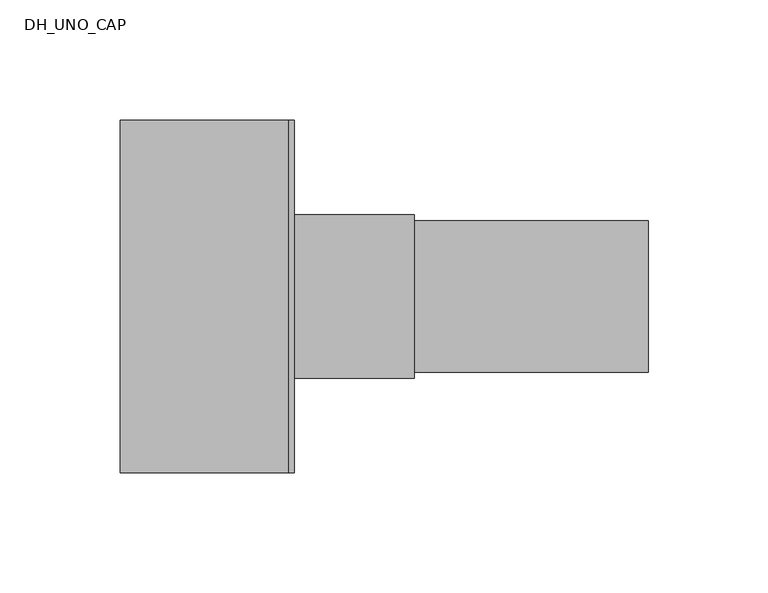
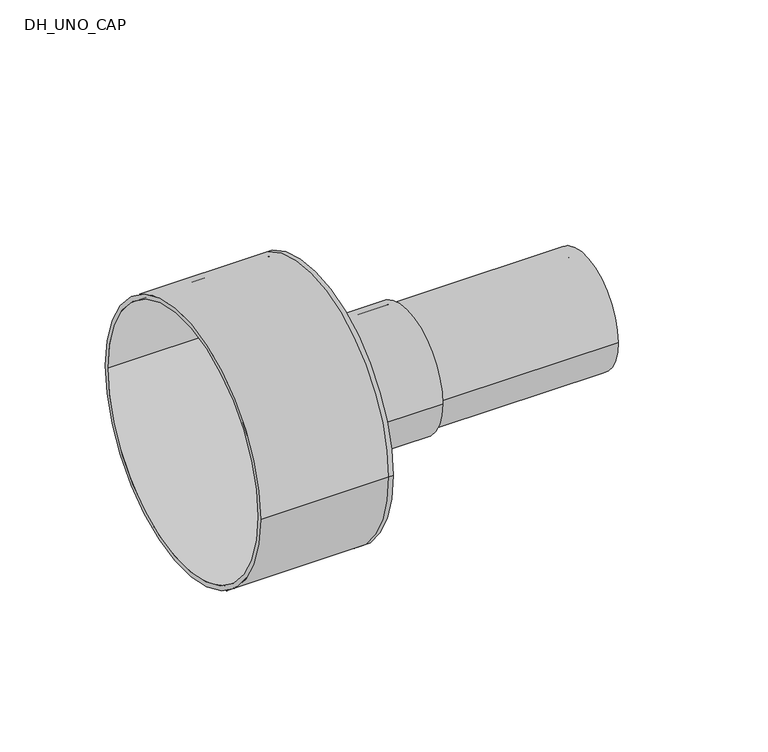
"""IFC4 building model written with IfcOpenShell, lengths in millimetres: pipe fitting geometry, DH_UNO_CAP : RAUTHERMEX UNO + 11 Heating - Schrink Cap."""

import ifcopenshell
import ifcopenshell.guid

model = None  # the IFC model being written
_history = None  # IfcOwnerHistory: only IFC2X3 demands one
_inside = {}  # id of a spatial element -> (the spatial element, [elements in it])
_under = {}  # id of a project, library or spatial element -> (it, [spatial elements below it])
_declared = {}  # id of a project -> (the project, [libraries it declares])
_typed = {}  # id of a type object -> (the type object, [elements of that type])
_made_of = {}  # id of a material, layer set ... -> (it, [elements and type objects made of it])


def new_model(schema):
    """Start an empty IFC model of exactly this schema.

    Asked for "IFC4X3", IfcOpenShell would pick the latest addendum, in which some entities
    have other attributes; the version numbers below select the first issue.
    IFC2X3 requires an IfcOwnerHistory on every rooted entity: one is made here for all.
    """
    global model, _history
    if schema == "IFC4X3":
        model = ifcopenshell.file(schema_version=(4, 3, 0, 0))
    else:
        model = ifcopenshell.file(schema=schema)
    _inside.clear()
    _under.clear()
    _declared.clear()
    _typed.clear()
    _made_of.clear()
    _history = None
    if model.schema == "IFC2X3":
        org = make("IfcOrganization", Name="unknown")
        user = make(
            "IfcPersonAndOrganization",
            ThePerson=make("IfcPerson", FamilyName="unknown"),
            TheOrganization=org,
        )
        app = make(
            "IfcApplication",
            ApplicationDeveloper=org,
            Version="unknown",
            ApplicationFullName="unknown",
            ApplicationIdentifier="unknown",
        )
        _history = make(
            "IfcOwnerHistory",
            OwningUser=user,
            OwningApplication=app,
            ChangeAction="ADDED",
            CreationDate=0,
        )
    return model


def make(cls, **values):
    """One entity of the class cls with the attributes given. An attribute that is None is left unset."""
    return model.create_entity(
        cls, **{name: value for name, value in values.items() if value is not None}
    )


def rooted(cls, **values):
    """An entity with a GlobalId (a new one), such as an element, a storey or a relation."""
    return make(cls, GlobalId=ifcopenshell.guid.new(), OwnerHistory=_history, **values)


def si_unit(unit_type, name, prefix=None):
    """IfcSIUnit, for example si_unit("LENGTHUNIT", "METRE", prefix="MILLI")."""
    return make("IfcSIUnit", UnitType=unit_type, Prefix=prefix, Name=name)


def assignment(units):
    """IfcUnitAssignment: the units of a project."""
    return None if units is None else make("IfcUnitAssignment", Units=units)


def point(xyz):
    """IfcCartesianPoint."""
    return None if xyz is None else make("IfcCartesianPoint", Coordinates=xyz)


def direction(xyz):
    """IfcDirection."""
    return None if xyz is None else make("IfcDirection", DirectionRatios=xyz)


def frame(location, z_axis=None, x_axis=None):
    """IfcAxis2Placement3D, a coordinate frame: its origin and axes. An axis left out is left unset."""
    return make(
        "IfcAxis2Placement3D",
        Location=point(location),
        Axis=direction(z_axis),
        RefDirection=direction(x_axis),
    )


def frame_2d(location, x_axis=None):
    """IfcAxis2Placement2D, a coordinate frame in the plane: its origin and x axis."""
    return make(
        "IfcAxis2Placement2D", Location=point(location), RefDirection=direction(x_axis)
    )


def origin():
    """The frame at (0, 0, 0) with its axes left unset."""
    return frame((0.0, 0.0, 0.0))


def origin_2d():
    """The frame at (0, 0) in the plane with its x axis left unset."""
    return frame_2d((0.0, 0.0))


def place(relative_to, where):
    """IfcLocalPlacement: puts the frame where relative to a parent placement (None: the world)."""
    return make(
        "IfcLocalPlacement", PlacementRelTo=relative_to, RelativePlacement=where
    )


def context(
    kind, dimensions, precision=None, world=None, true_north=None, identifier=None
):
    """IfcGeometricRepresentationContext, for example the 3D "Model" context."""
    return make(
        "IfcGeometricRepresentationContext",
        ContextIdentifier=identifier,
        ContextType=kind,
        CoordinateSpaceDimension=dimensions,
        Precision=precision,
        WorldCoordinateSystem=world,
        TrueNorth=true_north,
    )


def project(units=None, contexts=None):
    """IfcProject with its units and contexts."""
    return rooted(
        "IfcProject",
        Name="project",
        RepresentationContexts=contexts,
        UnitsInContext=assignment(units),
    )


def spatial(cls, under=None, at=None, **own):
    """A site, building, storey or space (cls), placed at a placement, below another one or the project."""
    s = rooted(cls, ObjectPlacement=at, **own)
    if under is not None:
        _under.setdefault(under.id(), (under, []))[1].append(s)
    return s


def polyline(points):
    """IfcPolyline through the points."""
    return make("IfcPolyline", Points=[point(p) for p in points])


def circle_curve(where, radius):
    """IfcCircle in the frame where."""
    return make("IfcCircle", Position=where, Radius=radius)


def trimmed(basis, trim1, trim2, sense, master):
    """IfcTrimmedCurve: the piece of a basis curve between two trims."""
    return make(
        "IfcTrimmedCurve",
        BasisCurve=basis,
        Trim1=trim1,
        Trim2=trim2,
        SenseAgreement=sense,
        MasterRepresentation=master,
    )


def segment(curve, same_sense, transition):
    """IfcCompositeCurveSegment."""
    return make(
        "IfcCompositeCurveSegment",
        Transition=transition,
        SameSense=same_sense,
        ParentCurve=curve,
    )


def composite_curve(segments, self_intersect=None):
    """IfcCompositeCurve: segments joined end to end."""
    return make("IfcCompositeCurve", Segments=segments, SelfIntersect=self_intersect)


def outline(outer, holes=None, kind="AREA"):
    """IfcArbitraryClosedProfileDef: a profile drawn as a closed curve; with holes, ...WithVoids."""
    if holes is None:
        return make("IfcArbitraryClosedProfileDef", ProfileType=kind, OuterCurve=outer)
    return make(
        "IfcArbitraryProfileDefWithVoids",
        ProfileType=kind,
        OuterCurve=outer,
        InnerCurves=holes,
    )


def extrude(swept, where, along, depth):
    """IfcExtrudedAreaSolid: the profile swept, set in the frame where, extruded along a direction by depth."""
    return make(
        "IfcExtrudedAreaSolid",
        SweptArea=swept,
        Position=where,
        ExtrudedDirection=direction(along),
        Depth=depth,
    )


def shape(context_of_items, identifier, shape_type, items):
    """IfcShapeRepresentation: the items that make up one representation, for example the "Body"."""
    return make(
        "IfcShapeRepresentation",
        ContextOfItems=context_of_items,
        RepresentationIdentifier=identifier,
        RepresentationType=shape_type,
        Items=items,
    )


def source(mapping_origin, context_of_items, identifier, shape_type, items):
    """IfcRepresentationMap: a shape defined once, which mapped items show again and again."""
    return make(
        "IfcRepresentationMap",
        MappingOrigin=mapping_origin,
        MappedRepresentation=shape(context_of_items, identifier, shape_type, items),
    )


def transform(
    local_origin,
    x_axis=None,
    y_axis=None,
    z_axis=None,
    scale=None,
    scale2=None,
    scale3=None,
    uniform=True,
):
    """IfcCartesianTransformationOperator3D, or its non-uniform kind. x_axis, y_axis, z_axis: its Axis1, 2, 3."""
    if uniform:
        return make(
            "IfcCartesianTransformationOperator3D",
            Axis1=direction(x_axis),
            Axis2=direction(y_axis),
            LocalOrigin=point(local_origin),
            Scale=scale,
            Axis3=direction(z_axis),
        )
    return make(
        "IfcCartesianTransformationOperator3DnonUniform",
        Axis1=direction(x_axis),
        Axis2=direction(y_axis),
        LocalOrigin=point(local_origin),
        Scale=scale,
        Axis3=direction(z_axis),
        Scale2=scale2,
        Scale3=scale3,
    )


def mapped(mapping_source, mapping_target):
    """IfcMappedItem: shows the shape of a source again, moved by a transform."""
    return make(
        "IfcMappedItem", MappingSource=mapping_source, MappingTarget=mapping_target
    )


def made_of(thing, what):
    """Note that an element or type object is made of a material, layer set ...; save() writes the relation."""
    if what is not None:
        _made_of.setdefault(what.id(), (what, []))[1].append(thing)
    return thing


def element(
    cls,
    number,
    at=None,
    inside=None,
    cuts=None,
    type_object=None,
    material=None,
    context=None,
    identifier="Body",
    shape_type=None,
    held_by="IfcProductDefinitionShape",
    body=None,
    shapes=None,
    **own,
):
    """One element of the class cls, such as IfcWall. Its Tag is "e" and its number.

    at: its placement. inside: the storey or other place that contains it. cuts: it is an
    opening in that element (IfcRelVoidsElement). A single representation is given by context,
    identifier, shape_type and body (its items); several are given by shapes. held_by: the class
    of the entity that holds the representations. save() writes the other relations.
    """
    e = rooted(cls, Tag="e%d" % number, ObjectPlacement=at, **own)
    if body is not None:
        shapes = [shape(context, identifier, shape_type, body)]
    if shapes is not None:
        e.Representation = make(held_by, Representations=shapes)
    if inside is not None:
        _inside.setdefault(inside.id(), (inside, []))[1].append(e)
    if cuts is not None:
        rooted(
            "IfcRelVoidsElement", RelatingBuildingElement=cuts, RelatedOpeningElement=e
        )
    if type_object is not None:
        _typed.setdefault(type_object.id(), (type_object, []))[1].append(e)
    return made_of(e, material)


def aggregate(whole, parts):
    """IfcRelAggregates: a whole, such as a stair, and the parts it consists of."""
    return rooted("IfcRelAggregates", RelatingObject=whole, RelatedObjects=parts)


def save(model, path):
    """Write the relations noted so far, then the file.

    IfcRelAggregates (storeys below a building ...), IfcRelContainedInSpatialStructure (elements
    in a storey), IfcRelDefinesByType, IfcRelAssociatesMaterial and IfcRelDeclares: one each for
    every whole, place, type object, material and project.
    """
    for whole, parts in _under.values():
        aggregate(whole, parts)
    for where, things in _inside.values():
        rooted(
            "IfcRelContainedInSpatialStructure",
            RelatedElements=things,
            RelatingStructure=where,
        )
    for kind, things in _typed.values():
        rooted("IfcRelDefinesByType", RelatedObjects=things, RelatingType=kind)
    for what, things in _made_of.values():
        rooted("IfcRelAssociatesMaterial", RelatedObjects=things, RelatingMaterial=what)
    for by, libraries in _declared.values():
        rooted("IfcRelDeclares", RelatingContext=by, RelatedDefinitions=libraries)
    model.write(path)


def plane_surface(at):
    """IfcPlane: the flat surface through the origin of the frame at, square to its z axis."""
    return make("IfcPlane", Position=at)


def cylinder_surface(at, radius):
    """IfcCylindricalSurface: all points at the distance radius from the z axis of the frame at."""
    return make("IfcCylindricalSurface", Position=at, Radius=radius)


def revolved_surface(curve, axis_point, axis_direction):
    """IfcSurfaceOfRevolution: the curve turned about the line through axis_point along axis_direction."""
    return make(
        "IfcSurfaceOfRevolution",
        SweptCurve=make("IfcArbitraryOpenProfileDef", ProfileType="CURVE", Curve=curve),
        AxisPosition=make("IfcAxis1Placement", Location=point(axis_point), Axis=direction(axis_direction)),
    )


def advanced_brep(points, edges, surfaces, faces):
    """IfcAdvancedBrep: a solid bounded by faces that lie on surfaces and meet in shared edges.

    An edge is (start, end): straight between two places in points (the first is 0);
    or (start, end, curve); or (start, end, curve, False) where it runs against its curve.
    A face is (place in surfaces, loops), or (place, loops, False) where it looks against
    its surface's normal. A loop lists edges by number (the first is 1), with a minus sign
    where the edge is run from its end to its start. The first loop is the outer one.
    """
    corners = [point(p) for p in points]
    vertices = [make("IfcVertexPoint", VertexGeometry=c) for c in corners]
    made = []
    for start, end, *more in edges:
        made.append(
            make(
                "IfcEdgeCurve",
                EdgeStart=vertices[start],
                EdgeEnd=vertices[end],
                EdgeGeometry=more[0] if more else make("IfcPolyline", Points=[corners[start], corners[end]]),
                SameSense=more[1] if len(more) > 1 else True,
            )
        )
    hull = []
    for where, loops, *sense in faces:
        bounds = []
        for j, loop in enumerate(loops):
            ring = [make("IfcOrientedEdge", EdgeElement=made[abs(k) - 1], Orientation=k > 0) for k in loop]
            bounds.append(
                make(
                    "IfcFaceOuterBound" if j == 0 else "IfcFaceBound",
                    Bound=make("IfcEdgeLoop", EdgeList=ring),
                    Orientation=True,
                )
            )
        hull.append(make("IfcAdvancedFace", Bounds=bounds, FaceSurface=surfaces[where], SameSense=sense[0] if sense else True))
    return make("IfcAdvancedBrep", Outer=make("IfcClosedShell", CfsFaces=hull))


def dh_uno_cap_09e5b6a2(model_context):
    return source(origin(), model_context, "Body", "SolidModel", [
        extrude(outline(composite_curve([segment(trimmed(circle_curve(origin_2d(), 31.5), [point((-31.5, 0.0))], [point((31.5, 0.0))], False, "CARTESIAN"), True, "CONTINUOUS"), segment(trimmed(circle_curve(origin_2d(), 31.5), [point((31.5, 0.0))], [point((-31.5, 0.0))], False, "CARTESIAN"), True, "CONTINUOUS")], self_intersect=False), holes=[composite_curve([segment(trimmed(circle_curve(origin_2d(), 25.7), [point((-25.7, 0.0))], [point((25.7, 0.0))], True, "CARTESIAN"), True, "CONTINUOUS"), segment(trimmed(circle_curve(origin_2d(), 25.7), [point((25.7, 0.0))], [point((-25.7, 0.0))], True, "CARTESIAN"), True, "CONTINUOUS")], self_intersect=False)]), frame((0.0, 0.0, 0.0), z_axis=(1.0, 0.0, 0.0), x_axis=(0.0, 1.0, 0.0)), (0.0, 0.0, 1.0), 150.0),
        advanced_brep(
        [(-70.0, -73.5, 0.0), (-70.0, 73.5, 0.0), (-70.0, -71.0, 0.0), (-70.0, 71.0, 0.0), (0.0, -71.0, 0.0), (0.0, 71.0, 0.0), (0.0, -73.5, 0.0), (0.0, 73.5, 0.0), (0.0, 31.5, 0.0), (0.0, -31.5, 0.0), (2.5, -73.5, 0.0), (2.5, 73.5, 0.0), (2.5, -31.5, 0.0), (2.5, 31.5, 0.0)],
        [
            (0, 1, circle_curve(frame((-70.0, 0.0, 0.0), z_axis=(-1.0, 0.0, 0.0), x_axis=(0.0, 1.0, 0.0)), 73.5)),
            (1, 0, circle_curve(frame((-70.0, 0.0, 0.0), z_axis=(-1.0, 0.0, 0.0), x_axis=(0.0, 1.0, 0.0)), 73.5)),
            (2, 3, circle_curve(frame((-70.0, 0.0, 0.0), z_axis=(1.0, 0.0, 0.0), x_axis=(0.0, 1.0, 0.0)), 71.0)),
            (3, 2, circle_curve(frame((-70.0, 0.0, 0.0), z_axis=(1.0, 0.0, 0.0), x_axis=(0.0, 1.0, 0.0)), 71.0)),
            (2, 4),
            (4, 5, circle_curve(frame((0.0, 0.0, 0.0), z_axis=(1.0, 0.0, 0.0), x_axis=(0.0, 1.0, 0.0)), 71.0)),
            (5, 3),
            (5, 4, circle_curve(frame((0.0, 0.0, 0.0), z_axis=(1.0, 0.0, 0.0), x_axis=(0.0, 1.0, 0.0)), 71.0)),
            (0, 6),
            (6, 7, circle_curve(frame((0.0, 0.0, 0.0), z_axis=(-1.0, 0.0, 0.0), x_axis=(0.0, 1.0, 0.0)), 73.5)),
            (7, 1),
            (7, 6, circle_curve(frame((0.0, 0.0, 0.0), z_axis=(-1.0, 0.0, 0.0), x_axis=(0.0, 1.0, 0.0)), 73.5)),
            (8, 9, circle_curve(frame((0.0, 0.0, 0.0), z_axis=(1.0, 0.0, 0.0), x_axis=(0.0, 1.0, 0.0)), 31.5)),
            (9, 8, circle_curve(frame((0.0, 0.0, 0.0), z_axis=(1.0, 0.0, 0.0), x_axis=(0.0, 1.0, 0.0)), 31.5)),
            (10, 11, circle_curve(frame((2.5, 0.0, 0.0), z_axis=(1.0, 0.0, 0.0), x_axis=(0.0, 1.0, 0.0)), 73.5)),
            (11, 10, circle_curve(frame((2.5, 0.0, 0.0), z_axis=(1.0, 0.0, 0.0), x_axis=(0.0, 1.0, 0.0)), 73.5)),
            (12, 13, circle_curve(frame((2.5, 0.0, 0.0), z_axis=(-1.0, 0.0, 0.0), x_axis=(0.0, 1.0, 0.0)), 31.5)),
            (13, 12, circle_curve(frame((2.5, 0.0, 0.0), z_axis=(-1.0, 0.0, 0.0), x_axis=(0.0, 1.0, 0.0)), 31.5)),
            (11, 7),
            (6, 10),
            (8, 13),
            (12, 9),
        ],
        [
            plane_surface(frame((-70.0, 0.0, 0.0), z_axis=(-1.0, 0.0, 0.0), x_axis=(0.0, 0.0, 1.0))),
            revolved_surface(polyline([(0.0, 71.0, 0.0), (-70.0, 71.0, 0.0)]), (-70.0, 0.0, 0.0), (1.0, 0.0, 0.0)),
            cylinder_surface(frame((-70.0, 0.0, 0.0), z_axis=(-1.0, 0.0, 0.0), x_axis=(0.0, 1.0, 0.0)), 73.5),
            plane_surface(frame((0.0, 0.0, 0.0), z_axis=(-1.0, 0.0, 0.0), x_axis=(0.0, 0.0, 1.0))),
            plane_surface(frame((2.5, 0.0, 0.0), z_axis=(1.0, 0.0, 0.0), x_axis=(0.0, 0.0, 1.0))),
            cylinder_surface(frame((0.0, 0.0, 0.0), z_axis=(-1.0, 0.0, 0.0), x_axis=(0.0, 1.0, 0.0)), 73.5),
            revolved_surface(polyline([(0.0, 31.5, 0.0), (2.5, 31.5, 0.0)]), (0.0, 0.0, 0.0), (-1.0, 0.0, 0.0)),
        ],
        [
            (0, [[1, 2], [3, 4]]),
            (1, [[-3, 5, 6, 7]]),
            (1, [[-4, -7, 8, -5]]),
            (2, [[-1, 9, 10, 11]]),
            (2, [[-2, -11, 12, -9]]),
            (3, [[-6, -8], [13, 14]]),
            (4, [[15, 16], [17, 18]]),
            (5, [[-16, 19, -10, 20]]),
            (5, [[-15, -20, -12, -19]]),
            (6, [[21, -17, 22, -13]]),
            (6, [[-21, -14, -22, -18]]),
        ],
    ),
        extrude(outline(composite_curve([segment(trimmed(circle_curve(origin_2d(), 34.0), [point((-34.0, 0.0))], [point((34.0, 0.0))], False, "CARTESIAN"), True, "CONTINUOUS"), segment(trimmed(circle_curve(origin_2d(), 34.0), [point((34.0, 0.0))], [point((-34.0, 0.0))], False, "CARTESIAN"), True, "CONTINUOUS")], self_intersect=False), holes=[composite_curve([segment(trimmed(circle_curve(origin_2d(), 31.5), [point((-31.5, 0.0))], [point((31.5, 0.0))], True, "CARTESIAN"), True, "CONTINUOUS"), segment(trimmed(circle_curve(origin_2d(), 31.5), [point((31.5, 0.0))], [point((-31.5, 0.0))], True, "CARTESIAN"), True, "CONTINUOUS")], self_intersect=False)]), frame((2.5, 0.0, 0.0), z_axis=(1.0, 0.0, 0.0), x_axis=(0.0, 1.0, 0.0)), (0.0, 0.0, 1.0), 50.0),
    ])


if __name__ == "__main__":
    model = new_model("IFC4")
    model_context = context("Model", 3, world=origin())
    ifc_project = project(units=[si_unit("LENGTHUNIT", "METRE", prefix="MILLI")], contexts=[model_context])
    site = spatial("IfcSite", under=ifc_project)
    building = spatial("IfcBuilding", under=site)
    placement = place(None, origin())
    dh_uno_cap_shape = dh_uno_cap_09e5b6a2(model_context)
    element("IfcPipeFitting", 1, ObjectType="DH_UNO_CAP : RAUTHERMEX UNO + 11 Heating - Schrink Cap", at=placement, inside=building, context=model_context, shape_type="MappedRepresentation", body=[
        mapped(dh_uno_cap_shape, transform((0.0, 0.0, 0.0), x_axis=(1.0, 0.0, 0.0), y_axis=(0.0, 1.0, 0.0), z_axis=(0.0, 0.0, 1.0))),
    ])
    save(model, "model.ifc")
